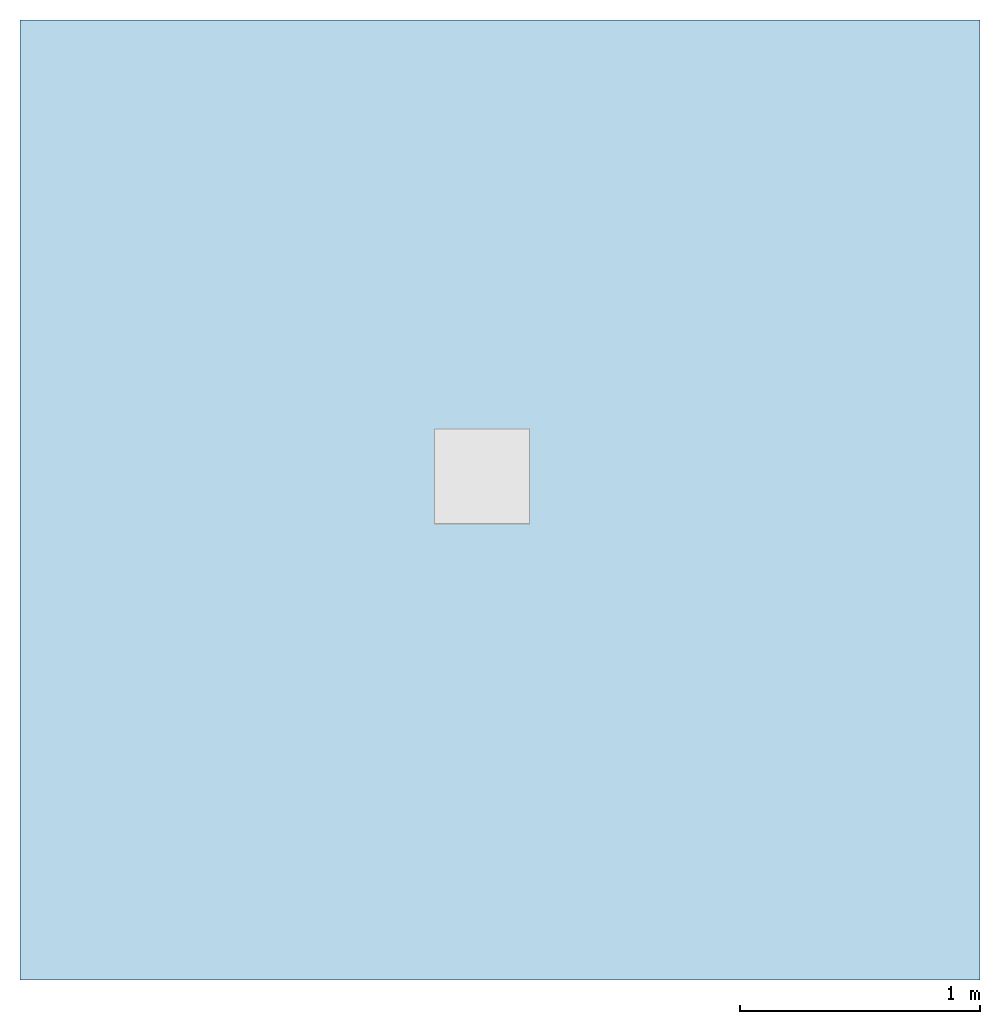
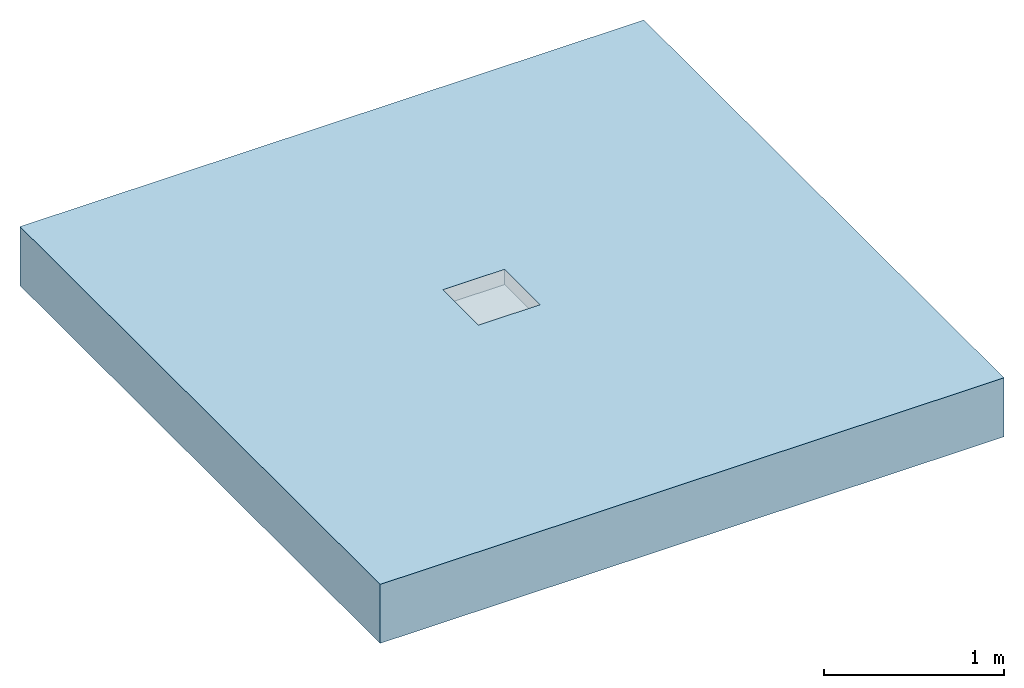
# One storey, incomplete: 1 slab, 3 openings.
"""IFC2X3 building model written with IfcOpenShell, lengths in millimetres."""

from ifc_helpers import new_model, entity, si_unit, converted_unit, derived_unit, direction, frame, frame_2d, origin, origin_2d_with_axis, place, context, subcontext, project, spatial, rectangle, extrude, faceted_brep, material, layer, layer_set, layer_usage, element, save


model = new_model("IFC2X3")

# Units and contexts
model_context = context("Model", 3, precision=1e-05, world=origin(), true_north=direction((2.0, 6.12303176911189e-17, 1.0)))
context_of_model = context(None, 3, precision=1e-05, world=origin(), true_north=direction((2.0, 6.12303176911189e-17, 1.0)))
body_context = subcontext(model_context, "Body", "Model", "MODEL_VIEW")
ifc_project = project(units=[si_unit("LENGTHUNIT", "METRE", prefix="MILLI"), si_unit("AREAUNIT", "SQUARE_METRE"), si_unit("VOLUMEUNIT", "CUBIC_METRE"), converted_unit("PLANEANGLEUNIT", "DEGREE", entity("IfcRatioMeasure", 0.0174532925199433), si_unit("PLANEANGLEUNIT", "RADIAN"), dimensions=[0, 0, 0, 0, 0, 0, 0]), si_unit("MASSUNIT", "GRAM", prefix="KILO"), si_unit("TIMEUNIT", "SECOND"), si_unit("THERMODYNAMICTEMPERATUREUNIT", "KELVIN"), derived_unit("THERMALTRANSMITTANCEUNIT", [(si_unit("MASSUNIT", "GRAM", prefix="KILO"), 1), (si_unit("THERMODYNAMICTEMPERATUREUNIT", "KELVIN"), -1), (si_unit("TIMEUNIT", "SECOND"), -3)]), derived_unit("VOLUMETRICFLOWRATEUNIT", [(si_unit("LENGTHUNIT", "METRE"), 3), (si_unit("TIMEUNIT", "SECOND"), -1)]), si_unit("POWERUNIT", "WATT")], contexts=[model_context, context_of_model])

# Site, building, storey
site_placement = place(None, origin())
site = spatial("IfcSite", under=ifc_project, at=site_placement, Name="Default", CompositionType="ELEMENT")
building_placement = place(site_placement, origin())
building = spatial("IfcBuilding", under=site, at=building_placement, CompositionType="ELEMENT")
storey_placement = place(building_placement, origin())
storey = spatial("IfcBuildingStorey", under=building, at=storey_placement, Name="Level 1", CompositionType="ELEMENT", Elevation=0.0)

# Slab, openings
ifc_material = material(Name="Concrete, Broom Finish")
ifc_layer = layer(ifc_material, 400.0)
ifc_layer_set = layer_set([ifc_layer], Name="Floor:Generic Floor - 400mm")
ifc_layer_usage = layer_usage(ifc_layer_set, "AXIS3", "POSITIVE", 0.0)
slab_placement = place(storey_placement, origin())
slab = element("IfcSlab", 1, at=slab_placement, inside=storey, material=ifc_layer_usage, Name="Floor:Generic Floor - 400mm", ObjectType="Floor:Generic Floor - 400mm", PredefinedType="FLOOR", context=body_context, shape_type="SweptSolid", body=[
    extrude(rectangle(XDim=4000.0, YDim=4000.0, at=frame_2d((0.0, 0.0), x_axis=(0.0, -1.0))), frame((-42.176138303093, 2.05004766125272, 0.0), z_axis=(0.0, 0.0, -1.0), x_axis=(-1.0, 0.0, 0.0)), (0.0, 0.0, 1.0), 400.0),
])
opening_1_placement = place(slab_placement, origin())
element("IfcOpeningElement", 2, at=opening_1_placement, cuts=slab, ObjectType="Recess", context=body_context, shape_type="SweptSolid", body=[
    extrude(rectangle(XDim=399.999999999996, YDim=399.999999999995, at=origin_2d_with_axis()), frame((-116.872907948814, 100.649783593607, -3084.0), z_axis=(0.0, 0.0, 1.0), x_axis=(-1.0, 0.0, 0.0)), (0.0, 0.0, 1.0), 74.9999999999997),
])
opening_2_placement = place(slab_placement, origin())
element("IfcOpeningElement", 3, at=opening_2_placement, cuts=slab, ObjectType="Recess", context=body_context, shape_type="SweptSolid", body=[
    extrude(rectangle(XDim=99.9999999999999, YDim=100.0, at=origin_2d_with_axis()), frame((-116.872907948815, 150.649783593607, -5000.0)), (0.0, 0.0, 1.0), 30.0000000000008),
])
opening_3_placement = place(slab_placement, origin())
element("IfcOpeningElement", 4, at=opening_3_placement, cuts=slab, ObjectType="Recess", context=body_context, shape_type="Brep", body=[
    faceted_brep([(-314.362907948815, -96.8402164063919, 0.0), (80.6170920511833, -96.8402164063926, 0.0), (80.617092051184, 298.139783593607, 0.0), (-314.362907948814, 298.139783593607, 0.0), (80.6170920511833, -96.8402164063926, -55.0), (80.617092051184, 298.139783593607, -55.0), (-314.362907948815, -96.8402164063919, -55.0), (-314.362907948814, 298.139783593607, -55.0), (83.1270920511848, -99.3502164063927, -55.0), (-316.872907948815, -99.3502164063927, -55.0), (83.1270920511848, 300.649783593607, -55.0), (-316.872907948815, 300.649783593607, -55.0), (-316.872907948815, 300.649783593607, -105.0), (83.1270920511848, 300.649783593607, -105.0), (83.1270920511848, -99.3502164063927, -105.0), (-316.872907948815, -99.3502164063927, -105.0)], [[[0, 1, 2]], [[2, 3, 0]], [[4, 5, 2]], [[2, 1, 4]], [[6, 4, 1]], [[1, 0, 6]], [[7, 6, 0]], [[0, 3, 7]], [[5, 7, 3]], [[3, 2, 5]], [[8, 4, 6]], [[4, 8, 5]], [[9, 6, 7]], [[6, 9, 8]], [[5, 10, 7]], [[10, 5, 8]], [[7, 11, 9]], [[11, 7, 10]], [[12, 13, 14]], [[14, 15, 12]], [[10, 8, 14]], [[14, 13, 10]], [[11, 10, 13]], [[13, 12, 11]], [[9, 11, 12]], [[12, 15, 9]], [[8, 9, 15]], [[15, 14, 8]]]),
])

save(model, "model.ifc")
